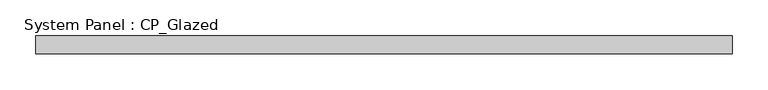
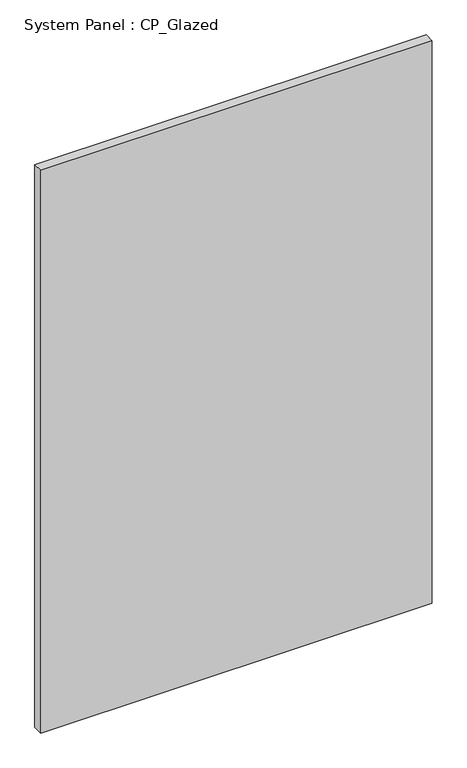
"""IFC4 building model written with IfcOpenShell, lengths in millimetres: plate geometry, System Panel : CP_Glazed."""

from ifc_helpers import new_model, si_unit, origin, origin_with_axes, place, context, project, spatial, polyline, outline, extrude, source, transform, mapped, element, save


def system_panel_cp_glazed_e0221fe4(model_context):
    return source(origin(), model_context, "Body", "SweptSolid", [
        extrude(outline(polyline([(487.0979167, -44.45), (-487.0979167, -44.45), (-487.0979167, -19.05), (487.0979167, -19.05), (487.0979167, -44.45)])), origin_with_axes(), (0.0, 0.0, 1.0), 1479.55),
    ])


if __name__ == "__main__":
    model = new_model("IFC4")
    model_context = context("Model", 3, world=origin())
    ifc_project = project(units=[si_unit("LENGTHUNIT", "METRE", prefix="MILLI")], contexts=[model_context])
    site = spatial("IfcSite", under=ifc_project)
    building = spatial("IfcBuilding", under=site)
    placement = place(None, origin())
    system_panel_cp_glazed_shape = system_panel_cp_glazed_e0221fe4(model_context)
    element("IfcPlate", 1, ObjectType="System Panel : CP_Glazed", at=placement, inside=building, context=model_context, shape_type="MappedRepresentation", body=[
        mapped(system_panel_cp_glazed_shape, transform((0.0, 0.0, 0.0), x_axis=(1.0, 0.0, 0.0), y_axis=(0.0, 1.0, 0.0), z_axis=(0.0, 0.0, 1.0))),
    ])
    save(model, "model.ifc")
